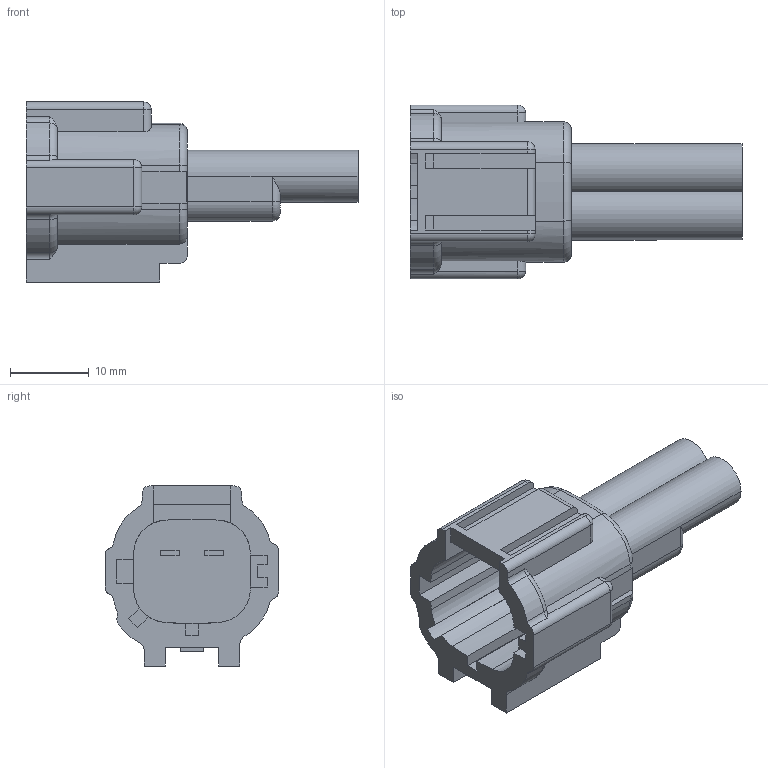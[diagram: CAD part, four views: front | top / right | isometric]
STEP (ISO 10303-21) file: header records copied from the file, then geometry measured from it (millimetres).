
FILE_DESCRIPTION(('CATIA V5 STEP Exchange'),'2;1');
FILE_NAME('N:\C-DAM_MyDesk\ENV\900093\6188-0554.stp','2013-09-30T07:32:21+00:00',('none'),('none'),'CATIA Version 5 Release 20 SP 4 (IN-10)','CATIA V5 STEP AP203','none');
FILE_SCHEMA(('CONFIG_CONTROL_DESIGN'));
Length unit declared in the file: millimetre
Products named in the file (1): 6188-0554
Bounding box: 42.2 x 22.1 x 22.9 mm (x, y, z)
Volume: 4786 mm3; surface area: 4603.7 mm2
Topology: 1 solids, 1 shells, 194 faces, 522 edges, 330 vertices
Faces by surface type: plane 103, cylinder 61, torus 21, sphere 6, bspline 3
Entity records: 5944 total; most frequent: CARTESIAN_POINT 1308, ORIENTED_EDGE 1032, DIRECTION 798, EDGE_CURVE 516, VERTEX_POINT 330, AXIS2_PLACEMENT_3D 322, VECTOR 313, LINE 313
